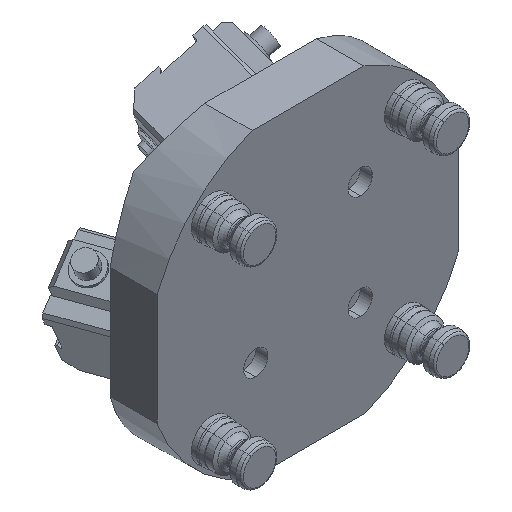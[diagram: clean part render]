
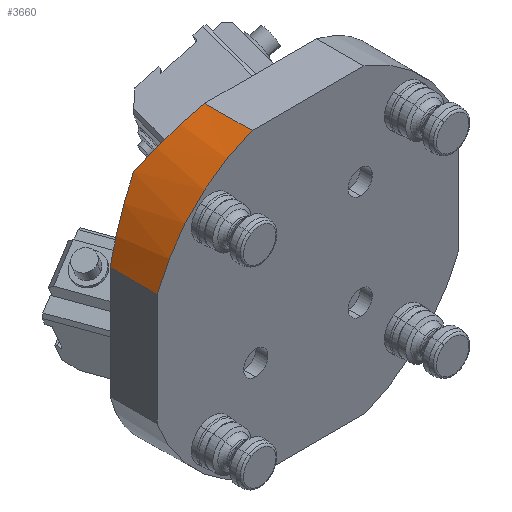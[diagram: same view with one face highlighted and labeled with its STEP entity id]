
A CAD part, isometric view. The second image highlights one B-rep face of the part: STEP entity #3660.
In plain terms, the highlighted cylindrical face has radius 80 mm (diameter 160 mm), a partial arc.
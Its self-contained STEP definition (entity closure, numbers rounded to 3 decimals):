
#16 = CARTESIAN_POINT ( 'NONE',  ( -75., 31.189, 27.839 ) ) ;
#108 = CARTESIAN_POINT ( 'NONE',  ( -27.839, 0., 75. ) ) ;
#394 = CARTESIAN_POINT ( 'NONE',  ( -27.839, 31.189, 75. ) ) ;
#628 = VECTOR ( 'NONE', #6840, 1000. ) ;
#655 = AXIS2_PLACEMENT_3D ( 'NONE', #6495, #9905, #4769 ) ;
#723 = FACE_OUTER_BOUND ( 'NONE', #1683, .T. ) ;
#829 = CARTESIAN_POINT ( 'NONE',  ( -38.672, 24.966, 70.979 ) ) ;
#960 = CARTESIAN_POINT ( 'NONE',  ( -70.979, 24.966, 38.672 ) ) ;
#987 = ORIENTED_EDGE ( 'NONE', *, *, #7833, .F. ) ;
#992 = ORIENTED_EDGE ( 'NONE', *, *, #1738, .F. ) ;
#1449 = LINE ( 'NONE', #394, #3608 ) ;
#1683 = EDGE_LOOP ( 'NONE', ( #992, #987, #4935, #10716, #10753 ) ) ;
#1738 = EDGE_CURVE ( 'NONE', #10911, #2705, #9121, .T. ) ;
#2687 = CARTESIAN_POINT ( 'NONE',  ( -56.569, 30.211, 56.569 ) ) ;
#2705 = VERTEX_POINT ( 'NONE', #7360 ) ;
#2814 = VERTEX_POINT ( 'NONE', #10949 ) ;
#2951 = CARTESIAN_POINT ( 'NONE',  ( -56.569, 30.211, 56.569 ) ) ;
#2989 = DIRECTION ( 'NONE',  ( 0., 0., -1. ) ) ;
#3533 = CARTESIAN_POINT ( 'NONE',  ( -48.398, 27.237, 64.739 ) ) ;
#3608 = VECTOR ( 'NONE', #9761, 1000. ) ;
#3660 = ADVANCED_FACE ( 'NONE', ( #723 ), #9860, .T. ) ;
#4769 = DIRECTION ( 'NONE',  ( 0., 0., -1. ) ) ;
#4935 = ORIENTED_EDGE ( 'NONE', *, *, #10132, .T. ) ;
#6495 = CARTESIAN_POINT ( 'NONE',  ( 0., 31.189, 0. ) ) ;
#6806 = CARTESIAN_POINT ( 'NONE',  ( -27.839, 23.502, 75. ) ) ;
#6840 = DIRECTION ( 'NONE',  ( 0., -1., 0. ) ) ;
#7085 = DIRECTION ( 'NONE',  ( 0., -1., 0. ) ) ;
#7360 = CARTESIAN_POINT ( 'NONE',  ( -27.839, 23.502, 75. ) ) ;
#7833 = EDGE_CURVE ( 'NONE', #2814, #10911, #8495, .T. ) ;
#7949 = EDGE_CURVE ( 'NONE', #8585, #9419, #9812, .T. ) ;
#8282 = CARTESIAN_POINT ( 'NONE',  ( -75., 0., 27.839 ) ) ;
#8495 =( BOUNDED_CURVE ( )  B_SPLINE_CURVE ( 3, ( #8645, #960, #8719, #2687 ),
 .UNSPECIFIED., .F., .F. ) 
 B_SPLINE_CURVE_WITH_KNOTS ( ( 4, 4 ),
 ( 0.355, 0.785 ),
 .UNSPECIFIED. ) 
 CURVE ( )  GEOMETRIC_REPRESENTATION_ITEM ( )  RATIONAL_B_SPLINE_CURVE ( ( 1., 0.985, 0.985, 1. ) ) 
 REPRESENTATION_ITEM ( '' )  );
#8585 = VERTEX_POINT ( 'NONE', #108 ) ;
#8645 = CARTESIAN_POINT ( 'NONE',  ( -75., 23.502, 27.839 ) ) ;
#8719 = CARTESIAN_POINT ( 'NONE',  ( -64.739, 27.237, 48.398 ) ) ;
#8792 = CARTESIAN_POINT ( 'NONE',  ( 0., 0., 0. ) ) ;
#9121 =( BOUNDED_CURVE ( )  B_SPLINE_CURVE ( 3, ( #9380, #3533, #829, #6806 ),
 .UNSPECIFIED., .F., .F. ) 
 B_SPLINE_CURVE_WITH_KNOTS ( ( 4, 4 ),
 ( 5.498, 5.928 ),
 .UNSPECIFIED. ) 
 CURVE ( )  GEOMETRIC_REPRESENTATION_ITEM ( )  RATIONAL_B_SPLINE_CURVE ( ( 1., 0.985, 0.985, 1. ) ) 
 REPRESENTATION_ITEM ( '' )  );
#9380 = CARTESIAN_POINT ( 'NONE',  ( -56.569, 30.211, 56.569 ) ) ;
#9419 = VERTEX_POINT ( 'NONE', #8282 ) ;
#9761 = DIRECTION ( 'NONE',  ( 0., -1., 0. ) ) ;
#9812 = CIRCLE ( 'NONE', #10277, 80. ) ;
#9860 = CYLINDRICAL_SURFACE ( 'NONE', #655, 80. ) ;
#9905 = DIRECTION ( 'NONE',  ( 0., -1., 0. ) ) ;
#10132 = EDGE_CURVE ( 'NONE', #2814, #9419, #10576, .T. ) ;
#10277 = AXIS2_PLACEMENT_3D ( 'NONE', #8792, #7085, #2989 ) ;
#10366 = EDGE_CURVE ( 'NONE', #2705, #8585, #1449, .T. ) ;
#10576 = LINE ( 'NONE', #16, #628 ) ;
#10716 = ORIENTED_EDGE ( 'NONE', *, *, #7949, .F. ) ;
#10753 = ORIENTED_EDGE ( 'NONE', *, *, #10366, .F. ) ;
#10911 = VERTEX_POINT ( 'NONE', #2951 ) ;
#10949 = CARTESIAN_POINT ( 'NONE',  ( -75., 23.502, 27.839 ) ) ;
